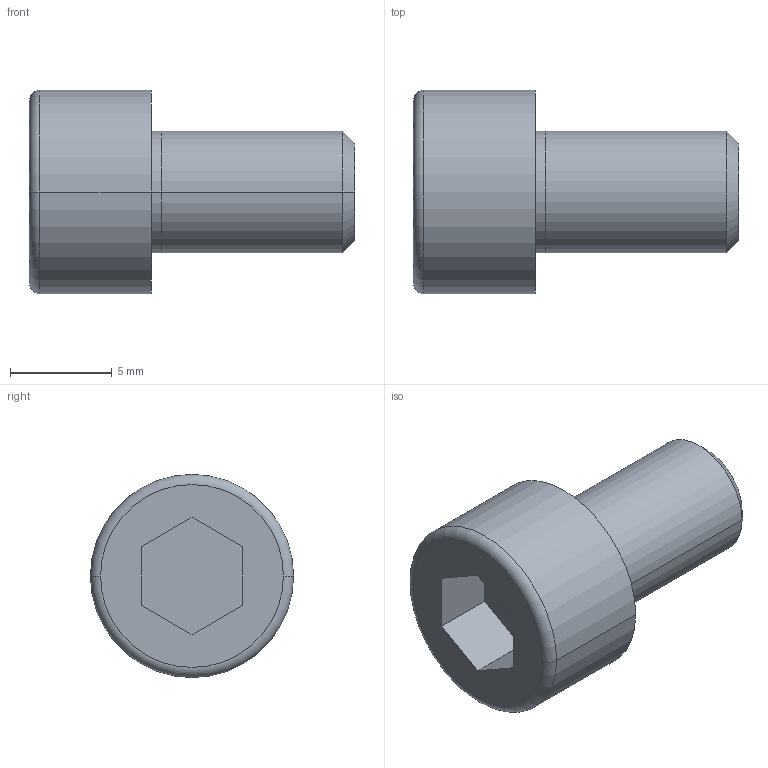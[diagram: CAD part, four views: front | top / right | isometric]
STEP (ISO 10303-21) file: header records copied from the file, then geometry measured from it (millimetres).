
FILE_DESCRIPTION((''),'2;1');
FILE_NAME('ZYLINDERSCHRAUBE_ISO_4762-M6X12','2022-06-13T16:17:46',('H041970'),(''),'CREO PARAMETRIC BY PTC INC, 2021284','CREO PARAMETRIC BY PTC INC, 2021284','');
FILE_SCHEMA(('CONFIG_CONTROL_DESIGN'));
Length unit declared in the file: millimetre
Products named in the file (1): ZYLINDERSCHRAUBE_ISO_4762-M6X12
Bounding box: 16 x 10 x 10 mm (x, y, z)
Volume: 684.2 mm3; surface area: 725.5 mm2
Topology: 1 solids, 2 shells, 21 faces, 47 edges, 32 vertices
Faces by surface type: plane 11, cylinder 6, cone 2, torus 2
Entity records: 668 total; most frequent: CARTESIAN_POINT 137, DIRECTION 107, ORIENTED_EDGE 88, EDGE_CURVE 46, AXIS2_PLACEMENT_3D 40, VERTEX_POINT 30, VECTOR 27, LINE 27
